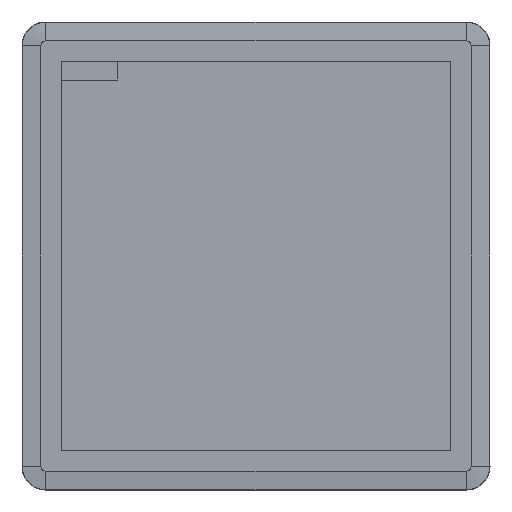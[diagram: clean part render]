
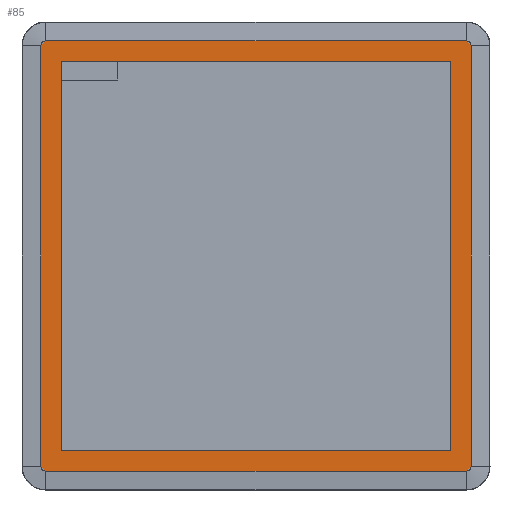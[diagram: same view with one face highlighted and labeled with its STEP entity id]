
A CAD part, front view. The second image highlights one B-rep face of the part: STEP entity #85.
In plain terms, the highlighted planar face has unit normal (0, -1, 0).
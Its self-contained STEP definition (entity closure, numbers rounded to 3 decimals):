
#85=ADVANCED_FACE('',(#1307,#1072),#17160,.T.);
#1072=FACE_BOUND('',#2316,.T.);
#1307=FACE_OUTER_BOUND('',#2315,.T.);
#2315=EDGE_LOOP('',(#3611,#3612,#3613,#3614,#3615,#3616,#3617,#3618));
#2316=EDGE_LOOP('',(#3619,#3620,#3621,#3622));
#3611=ORIENTED_EDGE('',*,*,#9042,.F.);
#3612=ORIENTED_EDGE('',*,*,#9039,.F.);
#3613=ORIENTED_EDGE('',*,*,#9046,.F.);
#3614=ORIENTED_EDGE('',*,*,#9053,.F.);
#3615=ORIENTED_EDGE('',*,*,#9058,.F.);
#3616=ORIENTED_EDGE('',*,*,#9072,.T.);
#3617=ORIENTED_EDGE('',*,*,#9054,.F.);
#3618=ORIENTED_EDGE('',*,*,#9048,.F.);
#3619=ORIENTED_EDGE('',*,*,#9076,.T.);
#3620=ORIENTED_EDGE('',*,*,#9073,.T.);
#3621=ORIENTED_EDGE('',*,*,#9074,.T.);
#3622=ORIENTED_EDGE('',*,*,#9075,.T.);
#9039=EDGE_CURVE('',#14807,#14808,#11912,.T.);
#9042=EDGE_CURVE('',#14808,#14810,#11915,.T.);
#9046=EDGE_CURVE('',#14813,#14807,#11919,.T.);
#9048=EDGE_CURVE('',#14810,#14814,#11921,.T.);
#9053=EDGE_CURVE('',#14817,#14813,#11926,.T.);
#9054=EDGE_CURVE('',#14814,#14818,#11927,.T.);
#9058=EDGE_CURVE('',#14821,#14817,#11931,.T.);
#9072=EDGE_CURVE('',#14821,#14818,#11937,.T.);
#9073=EDGE_CURVE('',#14822,#14823,#11938,.T.);
#9074=EDGE_CURVE('',#14823,#14824,#11939,.T.);
#9075=EDGE_CURVE('',#14824,#14825,#11940,.T.);
#9076=EDGE_CURVE('',#14825,#14822,#11941,.T.);
#11912=B_SPLINE_CURVE_WITH_KNOTS('',1,(#19344,#19345),.UNSPECIFIED.,.F.,
 .F.,(2,2),(0.,1.),.UNSPECIFIED.);
#11915=B_SPLINE_CURVE_WITH_KNOTS('',3,(#19350,#19351,#19352,#19353,#19354,
#19355),.UNSPECIFIED.,.F.,.F.,(4,2,4),(-0.785,0.,
0.785),.UNSPECIFIED.);
#11919=B_SPLINE_CURVE_WITH_KNOTS('',3,(#19366,#19367,#19368,#19369,#19370,
#19371),.UNSPECIFIED.,.F.,.F.,(4,2,4),(-0.785,0.,
0.785),.UNSPECIFIED.);
#11921=B_SPLINE_CURVE_WITH_KNOTS('',1,(#19378,#19379),.UNSPECIFIED.,.F.,
 .F.,(2,2),(0.,1.),.UNSPECIFIED.);
#11926=B_SPLINE_CURVE_WITH_KNOTS('',1,(#19388,#19389),.UNSPECIFIED.,.F.,
 .F.,(2,2),(-1.,0.),.UNSPECIFIED.);
#11927=B_SPLINE_CURVE_WITH_KNOTS('',3,(#19390,#19391,#19392,#19393,#19394,
#19395),.UNSPECIFIED.,.F.,.F.,(4,2,4),(-0.785,0.,
0.785),.UNSPECIFIED.);
#11931=B_SPLINE_CURVE_WITH_KNOTS('',3,(#19406,#19407,#19408,#19409,#19410,
#19411),.UNSPECIFIED.,.F.,.F.,(4,2,4),(-0.785,0.,
0.785),.UNSPECIFIED.);
#11937=B_SPLINE_CURVE_WITH_KNOTS('',1,(#19490,#19491),.UNSPECIFIED.,.F.,
 .F.,(2,2),(0.,1.),.UNSPECIFIED.);
#11938=B_SPLINE_CURVE_WITH_KNOTS('',1,(#19492,#19493),.UNSPECIFIED.,.F.,
 .F.,(2,2),(-4.,-3.),.UNSPECIFIED.);
#11939=B_SPLINE_CURVE_WITH_KNOTS('',1,(#19494,#19495),.UNSPECIFIED.,.F.,
 .F.,(2,2),(-3.,-2.),.UNSPECIFIED.);
#11940=B_SPLINE_CURVE_WITH_KNOTS('',1,(#19496,#19497),.UNSPECIFIED.,.F.,
 .F.,(2,2),(-2.,-1.),.UNSPECIFIED.);
#11941=B_SPLINE_CURVE_WITH_KNOTS('',1,(#19498,#19499),.UNSPECIFIED.,.F.,
 .F.,(2,2),(-1.,0.),.UNSPECIFIED.);
#14807=VERTEX_POINT('',#19234);
#14808=VERTEX_POINT('',#19235);
#14810=VERTEX_POINT('',#19237);
#14813=VERTEX_POINT('',#19240);
#14814=VERTEX_POINT('',#19241);
#14817=VERTEX_POINT('',#19244);
#14818=VERTEX_POINT('',#19245);
#14821=VERTEX_POINT('',#19248);
#14822=VERTEX_POINT('',#19249);
#14823=VERTEX_POINT('',#19250);
#14824=VERTEX_POINT('',#19251);
#14825=VERTEX_POINT('',#19252);
#17160=PLANE('',#17863);
#17863=AXIS2_PLACEMENT_3D('',#19198,#18482,$);
#18482=DIRECTION('',(0.,-1.,0.));
#19198=CARTESIAN_POINT('',(162.519,-30.5,137.481));
#19234=CARTESIAN_POINT('',(412.074,-30.5,-114.555));
#19235=CARTESIAN_POINT('',(187.926,-30.5,-114.555));
#19237=CARTESIAN_POINT('',(185.445,-30.5,-112.074));
#19240=CARTESIAN_POINT('',(414.555,-30.5,-112.074));
#19241=CARTESIAN_POINT('',(185.445,-30.5,112.074));
#19244=CARTESIAN_POINT('',(414.555,-30.5,112.074));
#19245=CARTESIAN_POINT('',(187.926,-30.5,114.555));
#19248=CARTESIAN_POINT('',(412.074,-30.5,114.555));
#19249=CARTESIAN_POINT('',(196.266,-30.5,103.734));
#19250=CARTESIAN_POINT('',(403.734,-30.5,103.734));
#19251=CARTESIAN_POINT('',(403.734,-30.5,-103.734));
#19252=CARTESIAN_POINT('',(196.266,-30.5,-103.734));
#19344=CARTESIAN_POINT('',(412.074,-30.5,-114.555));
#19345=CARTESIAN_POINT('',(187.926,-30.5,-114.555));
#19350=CARTESIAN_POINT('',(187.926,-30.5,-114.555));
#19351=CARTESIAN_POINT('',(187.275,-30.5,-114.558));
#19352=CARTESIAN_POINT('',(186.631,-30.5,-114.288));
#19353=CARTESIAN_POINT('',(185.712,-30.5,-113.369));
#19354=CARTESIAN_POINT('',(185.442,-30.5,-112.725));
#19355=CARTESIAN_POINT('',(185.445,-30.5,-112.074));
#19366=CARTESIAN_POINT('',(414.555,-30.5,-112.074));
#19367=CARTESIAN_POINT('',(414.558,-30.5,-112.725));
#19368=CARTESIAN_POINT('',(414.288,-30.5,-113.369));
#19369=CARTESIAN_POINT('',(413.369,-30.5,-114.288));
#19370=CARTESIAN_POINT('',(412.725,-30.5,-114.558));
#19371=CARTESIAN_POINT('',(412.074,-30.5,-114.555));
#19378=CARTESIAN_POINT('',(185.445,-30.5,-112.074));
#19379=CARTESIAN_POINT('',(185.445,-30.5,112.074));
#19388=CARTESIAN_POINT('',(414.555,-30.5,112.074));
#19389=CARTESIAN_POINT('',(414.555,-30.5,-112.074));
#19390=CARTESIAN_POINT('',(185.445,-30.5,112.074));
#19391=CARTESIAN_POINT('',(185.442,-30.5,112.725));
#19392=CARTESIAN_POINT('',(185.712,-30.5,113.369));
#19393=CARTESIAN_POINT('',(186.631,-30.5,114.288));
#19394=CARTESIAN_POINT('',(187.275,-30.5,114.558));
#19395=CARTESIAN_POINT('',(187.926,-30.5,114.555));
#19406=CARTESIAN_POINT('',(412.074,-30.5,114.555));
#19407=CARTESIAN_POINT('',(412.725,-30.5,114.558));
#19408=CARTESIAN_POINT('',(413.369,-30.5,114.288));
#19409=CARTESIAN_POINT('',(414.288,-30.5,113.369));
#19410=CARTESIAN_POINT('',(414.558,-30.5,112.725));
#19411=CARTESIAN_POINT('',(414.555,-30.5,112.074));
#19490=CARTESIAN_POINT('',(412.074,-30.5,114.555));
#19491=CARTESIAN_POINT('',(187.926,-30.5,114.555));
#19492=CARTESIAN_POINT('',(196.266,-30.5,103.734));
#19493=CARTESIAN_POINT('',(403.734,-30.5,103.734));
#19494=CARTESIAN_POINT('',(403.734,-30.5,103.734));
#19495=CARTESIAN_POINT('',(403.734,-30.5,-103.734));
#19496=CARTESIAN_POINT('',(403.734,-30.5,-103.734));
#19497=CARTESIAN_POINT('',(196.266,-30.5,-103.734));
#19498=CARTESIAN_POINT('',(196.266,-30.5,-103.734));
#19499=CARTESIAN_POINT('',(196.266,-30.5,103.734));
